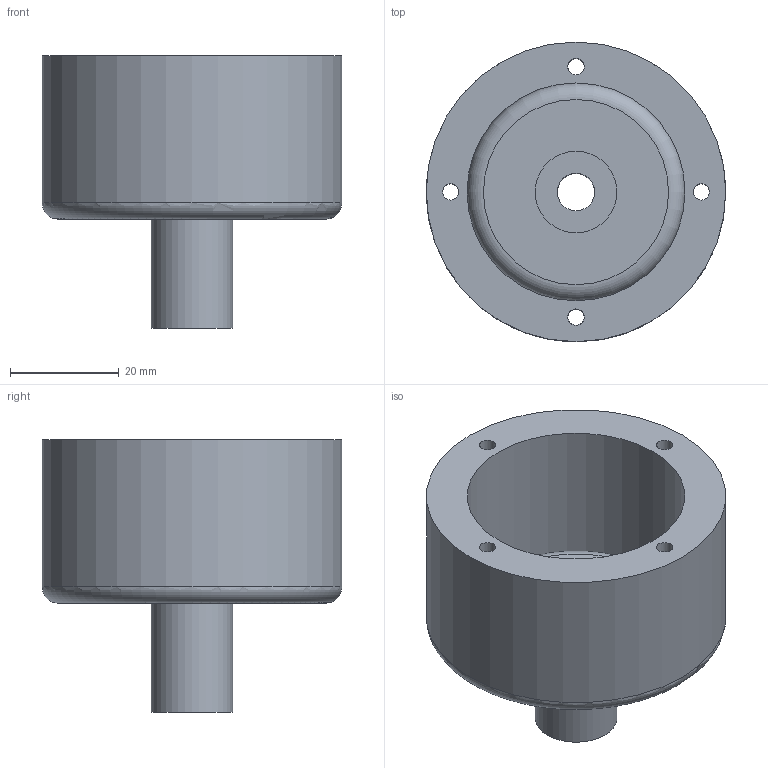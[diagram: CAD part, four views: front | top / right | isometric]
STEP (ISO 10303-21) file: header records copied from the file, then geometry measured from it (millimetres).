
FILE_DESCRIPTION(/* description */ (''),/* implementation_level */ '2;1');
FILE_NAME(/* name */ 'C:/Users/Jesus/Documents/eagle/Ileana/Proyecto final/Diseños 3D/Tanque_sensor_TempHum v5.step',/* time_stamp */ '2018-06-08T17:50:45-05:00',/* author */ ('sinister_4440'),/* organization */ (''),/* preprocessor_version */ 'ST-DEVELOPER v17',/* originating_system */ 'Autodesk Translation Framework v7.1.0.215',/* authorisation */ '');
FILE_SCHEMA (('AUTOMOTIVE_DESIGN { 1 0 10303 214 3 1 1 }'));
Length unit declared in the file: millimetre
Products named in the file (1): Tanque_sensor_TempHum
Bounding box: 55 x 55 x 50 mm (x, y, z)
Volume: 42458.4 mm3; surface area: 17389.2 mm2
Topology: 3 solids, 3 shells, 20 faces, 43 edges, 26 vertices
Faces by surface type: cylinder 11, plane 7, torus 2
Full cylindrical faces by diameter (mm): 3 x4, 6.86 x2, 15 x2, 40 x2, 55 x1
Entity records: 614 total; most frequent: DIRECTION 117, CARTESIAN_POINT 90, ORIENTED_EDGE 86, AXIS2_PLACEMENT_3D 53, EDGE_CURVE 43, CIRCLE 32, EDGE_LOOP 31, VERTEX_POINT 26
